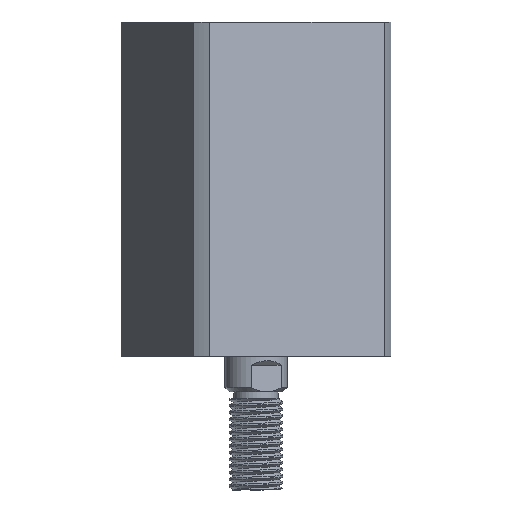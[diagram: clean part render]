
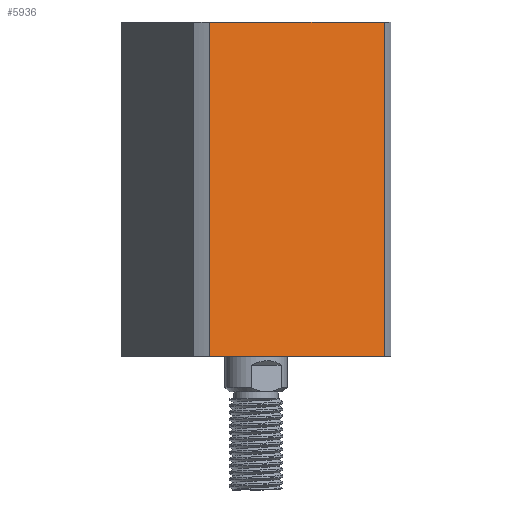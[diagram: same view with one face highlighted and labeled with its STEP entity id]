
A CAD part, left-side view. The second image highlights one B-rep face of the part: STEP entity #5936.
In plain terms, the highlighted planar face has unit normal (-0.924, -0.383, 0) as drawn and (1, 0, 0) by its records, which use the part's own axes.
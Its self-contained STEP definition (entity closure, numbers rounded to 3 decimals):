
#383 = DIRECTION ( 'NONE',  ( 0., -1., 0. ) ) ;
#460 = VERTEX_POINT ( 'NONE', #6340 ) ;
#845 = VECTOR ( 'NONE', #4635, 1000. ) ;
#961 = EDGE_CURVE ( 'NONE', #7893, #3788, #7229, .T. ) ;
#1002 = CARTESIAN_POINT ( 'NONE',  ( 24., 24., 75. ) ) ;
#1304 = EDGE_CURVE ( 'NONE', #6189, #460, #10690, .T. ) ;
#1321 = VECTOR ( 'NONE', #6776, 1000. ) ;
#1594 = DIRECTION ( 'NONE',  ( 0., 0., 1. ) ) ;
#2048 = PLANE ( 'NONE',  #3299 ) ;
#2104 = VECTOR ( 'NONE', #1594, 1000. ) ;
#2222 = EDGE_CURVE ( 'NONE', #6189, #3788, #7023, .T. ) ;
#2254 = ORIENTED_EDGE ( 'NONE', *, *, #2222, .T. ) ;
#2446 = CARTESIAN_POINT ( 'NONE',  ( 24., 21.166, 0. ) ) ;
#2887 = CARTESIAN_POINT ( 'NONE',  ( 24., 24., 75. ) ) ;
#3299 = AXIS2_PLACEMENT_3D ( 'NONE', #2887, #5372, #383 ) ;
#3788 = VERTEX_POINT ( 'NONE', #2446 ) ;
#4204 = FACE_OUTER_BOUND ( 'NONE', #7763, .T. ) ;
#4594 = CARTESIAN_POINT ( 'NONE',  ( 24., -21.166, 0. ) ) ;
#4604 = CARTESIAN_POINT ( 'NONE',  ( 24., 21.166, -225. ) ) ;
#4635 = DIRECTION ( 'NONE',  ( 0., 0., -1. ) ) ;
#4796 = CARTESIAN_POINT ( 'NONE',  ( 24., -21.166, -225. ) ) ;
#5372 = DIRECTION ( 'NONE',  ( -1., 0., 0. ) ) ;
#5736 = LINE ( 'NONE', #1002, #1321 ) ;
#5936 = ADVANCED_FACE ( 'NONE', ( #4204 ), #2048, .F. ) ;
#6189 = VERTEX_POINT ( 'NONE', #4594 ) ;
#6340 = CARTESIAN_POINT ( 'NONE',  ( 24., -21.166, 75. ) ) ;
#6730 = EDGE_CURVE ( 'NONE', #460, #7893, #5736, .T. ) ;
#6776 = DIRECTION ( 'NONE',  ( 0., 1., 0. ) ) ;
#7023 = LINE ( 'NONE', #10587, #9223 ) ;
#7229 = LINE ( 'NONE', #4604, #845 ) ;
#7763 = EDGE_LOOP ( 'NONE', ( #9119, #2254, #10557, #8082 ) ) ;
#7893 = VERTEX_POINT ( 'NONE', #9168 ) ;
#8082 = ORIENTED_EDGE ( 'NONE', *, *, #6730, .F. ) ;
#8188 = DIRECTION ( 'NONE',  ( 0., 1., 0. ) ) ;
#9119 = ORIENTED_EDGE ( 'NONE', *, *, #1304, .F. ) ;
#9168 = CARTESIAN_POINT ( 'NONE',  ( 24., 21.166, 75. ) ) ;
#9223 = VECTOR ( 'NONE', #8188, 1000. ) ;
#10557 = ORIENTED_EDGE ( 'NONE', *, *, #961, .F. ) ;
#10587 = CARTESIAN_POINT ( 'NONE',  ( 24., 24., 0. ) ) ;
#10690 = LINE ( 'NONE', #4796, #2104 ) ;
